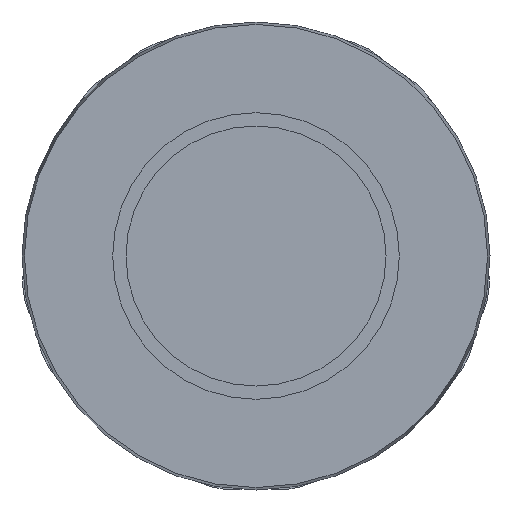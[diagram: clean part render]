
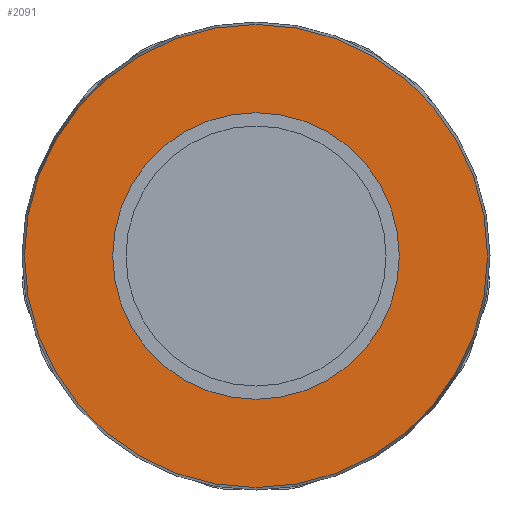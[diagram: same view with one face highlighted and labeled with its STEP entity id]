
A CAD part, front view. The second image highlights one B-rep face of the part: STEP entity #2091.
In plain terms, the highlighted planar face has unit normal (0, -1, 0).
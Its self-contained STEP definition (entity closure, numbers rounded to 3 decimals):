
#2057=CARTESIAN_POINT('',(-8.75,-19.05,0.0));
#2058=VERTEX_POINT('',#2057);
#2059=CARTESIAN_POINT('',(0.0,-19.05,0.0));
#2060=DIRECTION('',(0.0,1.0,0.0));
#2061=DIRECTION('',(-1.0,0.0,0.0));
#2062=AXIS2_PLACEMENT_3D('',#2059,#2060,#2061);
#2063=CIRCLE('',#2062,8.75);
#2064=EDGE_CURVE('',#2058,#2058,#2063,.T.);
#2072=CARTESIAN_POINT('',(-11.444,-19.05,0.0));
#2073=DIRECTION('',(0.0,-1.0,0.0));
#2074=DIRECTION('',(0.0,0.0,-1.0));
#2075=AXIS2_PLACEMENT_3D('',#2072,#2073,#2074);
#2076=PLANE('',#2075);
#2077=CARTESIAN_POINT('',(-14.138,-19.05,0.0));
#2078=VERTEX_POINT('',#2077);
#2079=CARTESIAN_POINT('',(0.0,-19.05,0.0));
#2080=DIRECTION('',(0.0,1.0,0.0));
#2081=DIRECTION('',(-1.0,0.0,0.0));
#2082=AXIS2_PLACEMENT_3D('',#2079,#2080,#2081);
#2083=CIRCLE('',#2082,14.138);
#2084=EDGE_CURVE('',#2078,#2078,#2083,.T.);
#2085=ORIENTED_EDGE('',*,*,#2084,.F.);
#2086=EDGE_LOOP('',(#2085));
#2087=FACE_OUTER_BOUND('',#2086,.T.);
#2088=ORIENTED_EDGE('',*,*,#2064,.T.);
#2089=EDGE_LOOP('',(#2088));
#2090=FACE_BOUND('',#2089,.T.);
#2091=ADVANCED_FACE('',(#2087,#2090),#2076,.T.);
